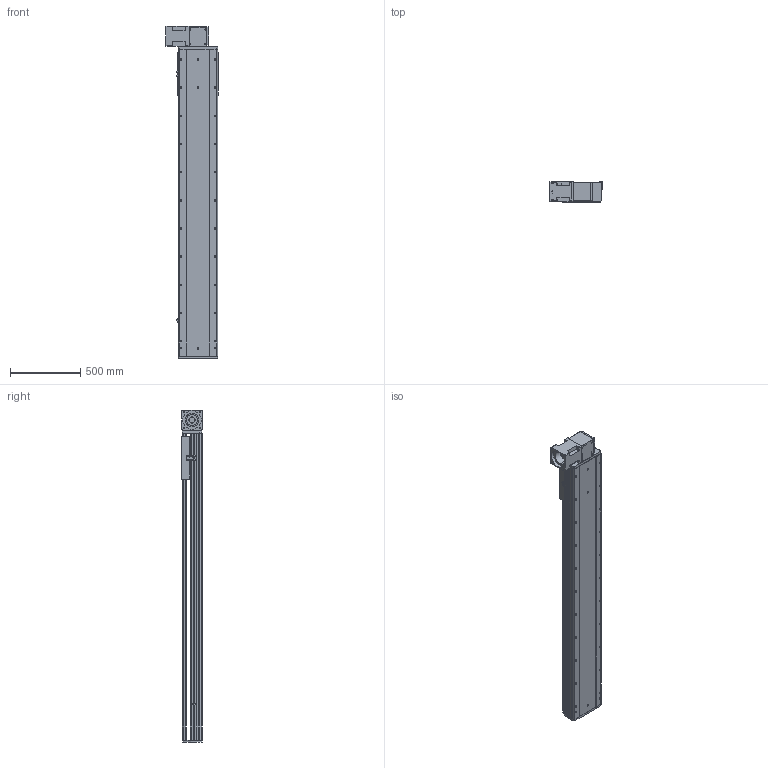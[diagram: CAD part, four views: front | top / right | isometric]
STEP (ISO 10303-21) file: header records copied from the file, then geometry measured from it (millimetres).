
FILE_DESCRIPTION (( 'STEP AP214' ), '1' );
FILE_NAME ('RTB28R-XX-1750-BR-M100-XX-C4.STEP', '2025-12-22T01:15:57', ( '' ), ( '' ), 'SwSTEP 2.0', 'SolidWorks 2018', '' );
FILE_SCHEMA (( 'AUTOMOTIVE_DESIGN' ));
Length unit declared in the file: millimetre
Products named in the file (4): RTB28R-XX-1750-BR-M100-XX-C4; RTB28S-GY-004^RTB28R-XX-XX-BR-M100-XX-C4; RTB28S-GY-008^RTB28R-XX-XX-BR-M100-XX-C4; RTB28S-GY-011^RTB28R-XX-XX-BR-M100-XX-C4
Assembly tree (3 placements, depth 2):
  RTB28R-XX-1750-BR-M100-XX-C4
    RTB28S-GY-011^RTB28R-XX-XX-BR-M100-XX-C4
    RTB28S-GY-004^RTB28R-XX-XX-BR-M100-XX-C4
    RTB28S-GY-008^RTB28R-XX-XX-BR-M100-XX-C4
Bounding box: 370 x 145 x 2357 mm (x, y, z)
Volume: 41418471.1 mm3; surface area: 3928794.1 mm2
Topology: 3 solids, 4 shells, 1028 faces, 2730 edges, 1756 vertices
Faces by surface type: plane 464, cylinder 393, bspline 87, cone 80, torus 4
Entity records: 44146 total; most frequent: CARTESIAN_POINT 11845, ORIENTED_EDGE 5396, DIRECTION 5262, EDGE_CURVE 2698, AXIS2_PLACEMENT_3D 1825, VERTEX_POINT 1756, VECTOR 1612, LINE 1612
